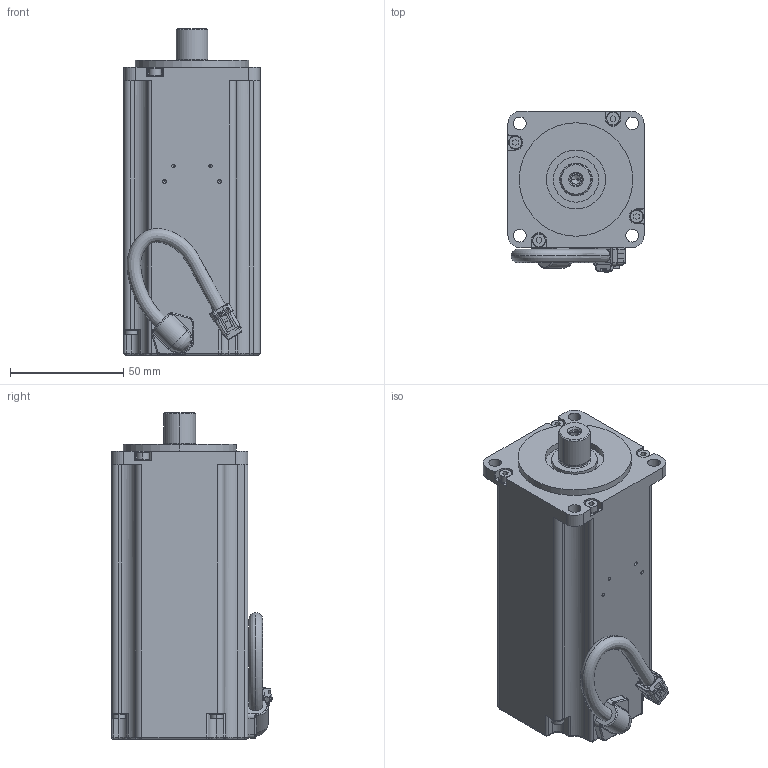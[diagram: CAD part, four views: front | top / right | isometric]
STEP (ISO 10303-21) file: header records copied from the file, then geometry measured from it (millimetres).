
FILE_DESCRIPTION (( 'STEP AP214' ), '1' );
FILE_NAME ('SGM7J-04APK-YR1.STEP', '2021-04-12T14:37:14', ( '' ), ( '' ), 'SwSTEP 2.0', 'SolidWorks 2019', '' );
FILE_SCHEMA (( 'AUTOMOTIVE_DESIGN' ));
Length unit declared in the file: millimetre
Products named in the file (1): SGM7J-04APK-YR1
Bounding box: 60 x 70.83 x 144 mm (x, y, z)
Volume: 415409 mm3; surface area: 40524.4 mm2
Topology: 1 solids, 2 shells, 607 faces, 1518 edges, 940 vertices
Faces by surface type: plane 346, cylinder 189, bspline 52, cone 20
Entity records: 27668 total; most frequent: CARTESIAN_POINT 6865, ORIENTED_EDGE 3004, DIRECTION 2908, EDGE_CURVE 1502, VECTOR 994, LINE 994, AXIS2_PLACEMENT_3D 957, VERTEX_POINT 940
